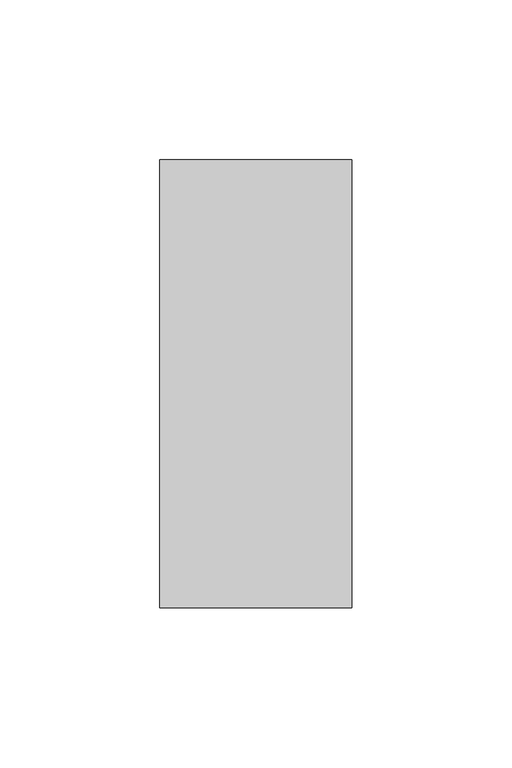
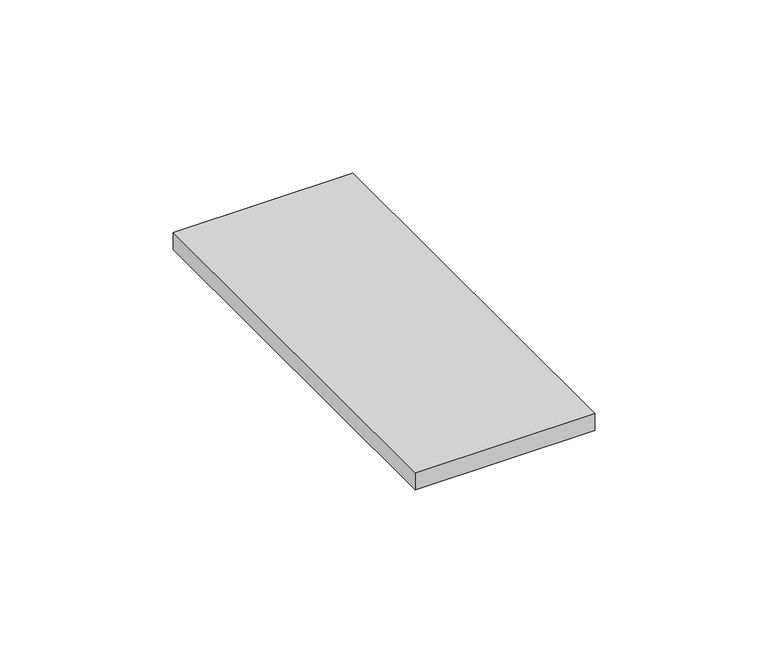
"""IFC4 building model written with IfcOpenShell, lengths in millimetres: proxy geometry, PSOS_Joint-Basorfix : Basorfix PSOS 60x140x6 GC70."""

from ifc_helpers import new_model, si_unit, origin, origin_with_axes, place, context, project, spatial, polyline, outline, extrude, source, transform, mapped, element, save


def generic_models_85df7699(model_context):
    return source(origin(), model_context, "Body", "SweptSolid", [
        extrude(outline(polyline([(30.0, -70.0), (-30.0, -70.0), (-30.0, 70.0), (30.0, 70.0), (30.0, -70.0)])), origin_with_axes(), (0.0, 0.0, 1.0), 6.0),
    ])


if __name__ == "__main__":
    model = new_model("IFC4")
    model_context = context("Model", 3, world=origin())
    ifc_project = project(units=[si_unit("LENGTHUNIT", "METRE", prefix="MILLI")], contexts=[model_context])
    site = spatial("IfcSite", under=ifc_project)
    building = spatial("IfcBuilding", under=site)
    placement = place(None, origin())
    generic_models_shape = generic_models_85df7699(model_context)
    element("IfcBuildingElementProxy", 1, Name="PSOS_Joint-Basorfix : Basorfix PSOS 60x140x6 GC70", ObjectType="PSOS_Joint-Basorfix : Basorfix PSOS 60x140x6 GC70", at=placement, inside=building, context=model_context, shape_type="MappedRepresentation", body=[
        mapped(generic_models_shape, transform((0.0, 0.0, 0.0), x_axis=(1.0, 0.0, 0.0), y_axis=(0.0, 1.0, 0.0), z_axis=(0.0, 0.0, 1.0))),
    ])
    save(model, "model.ifc")
